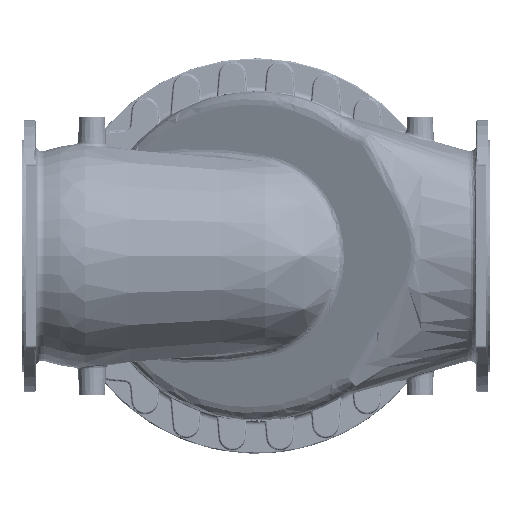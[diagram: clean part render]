
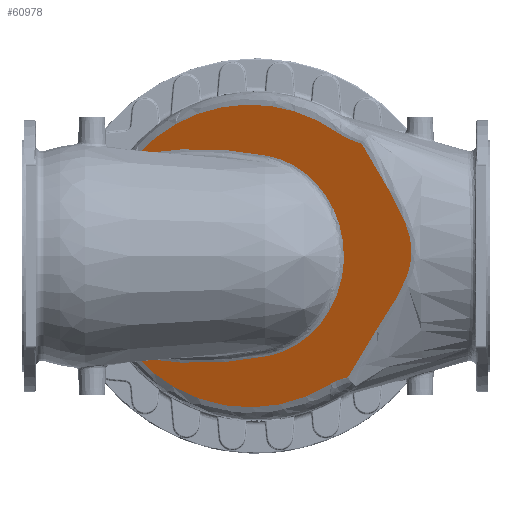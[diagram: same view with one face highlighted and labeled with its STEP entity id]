
A CAD part, front view. The second image highlights one B-rep face of the part: STEP entity #60978.
In plain terms, the highlighted planar face has unit normal (-0.479, -0.878, 0).
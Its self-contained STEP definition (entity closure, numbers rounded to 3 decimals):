
#1456=ELLIPSE('',#69191,701.452,331.499);
#1457=ELLIPSE('',#69192,701.452,331.499);
#1458=ELLIPSE('',#69193,534.212,469.);
#1459=ELLIPSE('',#69194,534.212,469.);
#3391=B_SPLINE_CURVE_WITH_KNOTS('',3,(#111747,#111748,#111749,#111750,#111751,
#111752,#111753,#111754,#111755,#111756,#111757),.UNSPECIFIED.,.F.,.F.,
(4,1,1,1,1,1,1,1,4),(-44.495,-42.186,-37.968,
-33.749,-25.312,-18.984,-12.656,
-6.328,0.),.UNSPECIFIED.);
#3392=B_SPLINE_CURVE_WITH_KNOTS('',3,(#111759,#111760,#111761,#111762,#111763,
#111764,#111765,#111766,#111767,#111768),.UNSPECIFIED.,.F.,.F.,(4,1,1,1,
1,1,1,4),(-88.591,-82.263,-75.935,-67.498,
-63.279,-54.842,-50.623,-44.495),
 .UNSPECIFIED.);
#3393=B_SPLINE_CURVE_WITH_KNOTS('',3,(#111774,#111775,#111776,#111777,#111778,
#111779),.UNSPECIFIED.,.F.,.F.,(4,1,1,4),(-4.045,-1.092,
1.185,2.324),.UNSPECIFIED.);
#3394=B_SPLINE_CURVE_WITH_KNOTS('',3,(#111781,#111782,#111783,#111784,#111785,
#111786,#111787,#111788,#111789,#111790,#111791,#111792,#111793),
 .UNSPECIFIED.,.F.,.F.,(4,1,1,1,1,1,1,1,1,1,4),(41.74,43.175,
47.282,51.389,55.496,59.603,63.711,
69.872,76.032,82.193,86.933),
 .UNSPECIFIED.);
#3395=B_SPLINE_CURVE_WITH_KNOTS('',3,(#111795,#111796,#111797,#111798,#111799,
#111800,#111801,#111802,#111803,#111804,#111805,#111806),.UNSPECIFIED.,
 .F.,.F.,(4,1,1,1,1,1,1,1,1,4),(3.22,8.263,14.424,
22.639,24.692,26.746,30.853,34.96,
39.067,41.74),.UNSPECIFIED.);
#3396=B_SPLINE_CURVE_WITH_KNOTS('',3,(#111808,#111809,#111810,#111811,#111812,
#111813,#111814),.UNSPECIFIED.,.F.,.F.,(4,1,1,1,4),(0.,1.492,
4.477,7.462,9.305),.UNSPECIFIED.);
#5805=PLANE('',#69190);
#8326=FACE_OUTER_BOUND('',#12269,.T.);
#12269=EDGE_LOOP('',(#49539,#49540,#49541,#49542,#49543,#49544,#49545,#49546,
#49547,#49548));
#26336=VERTEX_POINT('',#111743);
#26337=VERTEX_POINT('',#111744);
#26338=VERTEX_POINT('',#111746);
#26339=VERTEX_POINT('',#111758);
#26340=VERTEX_POINT('',#111769);
#26341=VERTEX_POINT('',#111771);
#26342=VERTEX_POINT('',#111773);
#26343=VERTEX_POINT('',#111780);
#26344=VERTEX_POINT('',#111794);
#26345=VERTEX_POINT('',#111807);
#34418=EDGE_CURVE('',#26336,#26337,#1456,.T.);
#34419=EDGE_CURVE('',#26338,#26336,#3391,.T.);
#34420=EDGE_CURVE('',#26339,#26338,#3392,.T.);
#34421=EDGE_CURVE('',#26340,#26339,#1457,.T.);
#34422=EDGE_CURVE('',#26341,#26340,#1458,.T.);
#34423=EDGE_CURVE('',#26342,#26341,#3393,.T.);
#34424=EDGE_CURVE('',#26343,#26342,#3394,.T.);
#34425=EDGE_CURVE('',#26344,#26343,#3395,.T.);
#34426=EDGE_CURVE('',#26345,#26344,#3396,.T.);
#34427=EDGE_CURVE('',#26337,#26345,#1459,.T.);
#49539=ORIENTED_EDGE('',*,*,#34418,.F.);
#49540=ORIENTED_EDGE('',*,*,#34419,.F.);
#49541=ORIENTED_EDGE('',*,*,#34420,.F.);
#49542=ORIENTED_EDGE('',*,*,#34421,.F.);
#49543=ORIENTED_EDGE('',*,*,#34422,.F.);
#49544=ORIENTED_EDGE('',*,*,#34423,.F.);
#49545=ORIENTED_EDGE('',*,*,#34424,.F.);
#49546=ORIENTED_EDGE('',*,*,#34425,.F.);
#49547=ORIENTED_EDGE('',*,*,#34426,.F.);
#49548=ORIENTED_EDGE('',*,*,#34427,.F.);
#60978=ADVANCED_FACE('',(#8326),#5805,.F.);
#69190=AXIS2_PLACEMENT_3D('',#111742,#85169,#85170);
#69191=AXIS2_PLACEMENT_3D('',#111745,#85171,#85172);
#69192=AXIS2_PLACEMENT_3D('',#111770,#85173,#85174);
#69193=AXIS2_PLACEMENT_3D('',#111772,#85175,#85176);
#69194=AXIS2_PLACEMENT_3D('',#111815,#85177,#85178);
#85169=DIRECTION('center_axis',(0.479,0.878,0.));
#85170=DIRECTION('ref_axis',(-0.878,0.479,0.));
#85171=DIRECTION('center_axis',(-0.479,-0.878,0.));
#85172=DIRECTION('ref_axis',(-0.878,0.479,0.));
#85173=DIRECTION('center_axis',(-0.479,-0.878,0.));
#85174=DIRECTION('ref_axis',(-0.878,0.479,0.));
#85175=DIRECTION('center_axis',(0.479,0.878,0.));
#85176=DIRECTION('ref_axis',(-0.878,0.479,0.));
#85177=DIRECTION('center_axis',(0.479,0.878,0.));
#85178=DIRECTION('ref_axis',(-0.878,0.479,0.));
#111742=CARTESIAN_POINT('Origin',(535.424,-318.559,0.));
#111743=CARTESIAN_POINT('',(39.034,-47.845,309.887));
#111744=CARTESIAN_POINT('',(-365.7,172.883,316.015));
#111745=CARTESIAN_POINT('Origin',(-179.684,71.436,0.));
#111746=CARTESIAN_POINT('',(272.312,-175.066,-2.));
#111747=CARTESIAN_POINT('Ctrl Pts',(272.311,-175.066,
-2.));
#111748=CARTESIAN_POINT('Ctrl Pts',(272.358,-175.091,
5.697));
#111749=CARTESIAN_POINT('Ctrl Pts',(271.761,-174.766,
27.459));
#111750=CARTESIAN_POINT('Ctrl Pts',(267.346,-172.358,
63.018));
#111751=CARTESIAN_POINT('Ctrl Pts',(253.75,-164.943,
117.233));
#111752=CARTESIAN_POINT('Ctrl Pts',(227.701,-150.737,
173.775));
#111753=CARTESIAN_POINT('Ctrl Pts',(187.034,-128.559,
227.123));
#111754=CARTESIAN_POINT('Ctrl Pts',(142.945,-104.514,
266.12));
#111755=CARTESIAN_POINT('Ctrl Pts',(93.087,-77.323,294.705));
#111756=CARTESIAN_POINT('Ctrl Pts',(57.261,-57.785,
306.159));
#111757=CARTESIAN_POINT('Ctrl Pts',(39.034,-47.845,
309.887));
#111758=CARTESIAN_POINT('',(39.034,-47.845,-309.887));
#111759=CARTESIAN_POINT('Ctrl Pts',(39.034,-47.845,
-309.887));
#111760=CARTESIAN_POINT('Ctrl Pts',(57.261,-57.785,-306.159));
#111761=CARTESIAN_POINT('Ctrl Pts',(93.083,-77.321,
-294.703));
#111762=CARTESIAN_POINT('Ctrl Pts',(148.486,-107.536,
-262.952));
#111763=CARTESIAN_POINT('Ctrl Pts',(191.601,-131.05,
-222.205));
#111764=CARTESIAN_POINT('Ctrl Pts',(230.595,-152.315,
-167.495));
#111765=CARTESIAN_POINT('Ctrl Pts',(253.739,-164.938,-117.234));
#111766=CARTESIAN_POINT('Ctrl Pts',(268.9,-173.206,
-56.888));
#111767=CARTESIAN_POINT('Ctrl Pts',(272.185,-174.997,-22.425));
#111768=CARTESIAN_POINT('Ctrl Pts',(272.311,-175.066,
-2.));
#111769=CARTESIAN_POINT('',(-365.7,172.883,-316.015));
#111770=CARTESIAN_POINT('Origin',(-179.684,71.436,0.));
#111771=CARTESIAN_POINT('',(232.138,-153.157,-395.998));
#111772=CARTESIAN_POINT('Origin',(-19.152,-16.112,0.));
#111773=CARTESIAN_POINT('',(285.001,-181.987,-375.602));
#111774=CARTESIAN_POINT('Ctrl Pts',(285.001,-181.986,-375.597));
#111775=CARTESIAN_POINT('Ctrl Pts',(276.425,-177.309,
-377.316));
#111776=CARTESIAN_POINT('Ctrl Pts',(261.417,-169.125,-381.419));
#111777=CARTESIAN_POINT('Ctrl Pts',(243.98,-159.615,
-388.993));
#111778=CARTESIAN_POINT('Ctrl Pts',(235.049,-154.745,-394.151));
#111779=CARTESIAN_POINT('Ctrl Pts',(232.138,-153.157,
-395.998));
#111780=CARTESIAN_POINT('',(481.287,-289.034,10.865));
#111781=CARTESIAN_POINT('Ctrl Pts',(481.283,-289.032,10.865));
#111782=CARTESIAN_POINT('Ctrl Pts',(481.238,-289.008,
6.082));
#111783=CARTESIAN_POINT('Ctrl Pts',(480.414,-288.558,
-12.382));
#111784=CARTESIAN_POINT('Ctrl Pts',(474.469,-285.316,
-44.026));
#111785=CARTESIAN_POINT('Ctrl Pts',(460.475,-277.684,
-82.003));
#111786=CARTESIAN_POINT('Ctrl Pts',(442.603,-267.937,
-117.719));
#111787=CARTESIAN_POINT('Ctrl Pts',(422.564,-257.009,
-151.891));
#111788=CARTESIAN_POINT('Ctrl Pts',(397.913,-243.565,-190.713));
#111789=CARTESIAN_POINT('Ctrl Pts',(369.09,-227.846,
-234.486));
#111790=CARTESIAN_POINT('Ctrl Pts',(337.172,-210.439,-284.238));
#111791=CARTESIAN_POINT('Ctrl Pts',(309.033,-195.093,
-331.226));
#111792=CARTESIAN_POINT('Ctrl Pts',(292.122,-185.87,-362.044));
#111793=CARTESIAN_POINT('Ctrl Pts',(285.002,-181.987,
-375.602));
#111794=CARTESIAN_POINT('',(327.342,-205.078,348.102));
#111795=CARTESIAN_POINT('Ctrl Pts',(327.342,-205.078,
348.102));
#111796=CARTESIAN_POINT('Ctrl Pts',(335.267,-209.4,
333.918));
#111797=CARTESIAN_POINT('Ctrl Pts',(353.225,-219.193,
302.662));
#111798=CARTESIAN_POINT('Ctrl Pts',(385.191,-236.627,
249.17));
#111799=CARTESIAN_POINT('Ctrl Pts',(412.309,-251.416,
203.988));
#111800=CARTESIAN_POINT('Ctrl Pts',(431.569,-261.92,
169.246));
#111801=CARTESIAN_POINT('Ctrl Pts',(443.936,-268.664,145.763));
#111802=CARTESIAN_POINT('Ctrl Pts',(458.285,-276.489,115.666));
#111803=CARTESIAN_POINT('Ctrl Pts',(472.337,-284.153,77.763));
#111804=CARTESIAN_POINT('Ctrl Pts',(480.095,-288.384,
42.401));
#111805=CARTESIAN_POINT('Ctrl Pts',(481.367,-289.078,19.774));
#111806=CARTESIAN_POINT('Ctrl Pts',(481.283,-289.032,10.865));
#111807=CARTESIAN_POINT('',(251.774,-163.865,382.832));
#111808=CARTESIAN_POINT('Ctrl Pts',(251.774,-163.865,
382.832));
#111809=CARTESIAN_POINT('Ctrl Pts',(255.483,-165.889,
380.207));
#111810=CARTESIAN_POINT('Ctrl Pts',(266.883,-172.106,
372.805));
#111811=CARTESIAN_POINT('Ctrl Pts',(286.809,-182.973,
362.556));
#111812=CARTESIAN_POINT('Ctrl Pts',(308.46,-194.78,354.031));
#111813=CARTESIAN_POINT('Ctrl Pts',(322.103,-202.221,
349.65));
#111814=CARTESIAN_POINT('Ctrl Pts',(327.342,-205.078,
348.101));
#111815=CARTESIAN_POINT('Origin',(-19.152,-16.112,0.));
